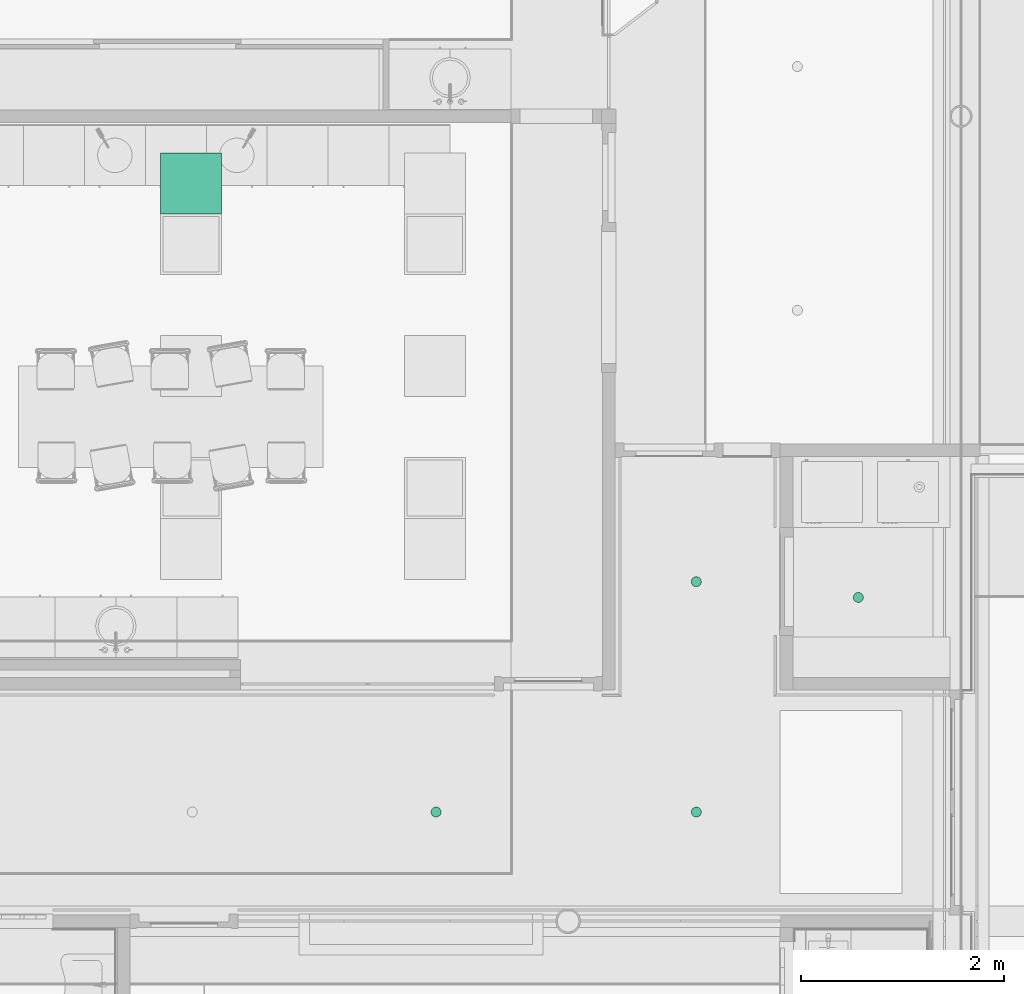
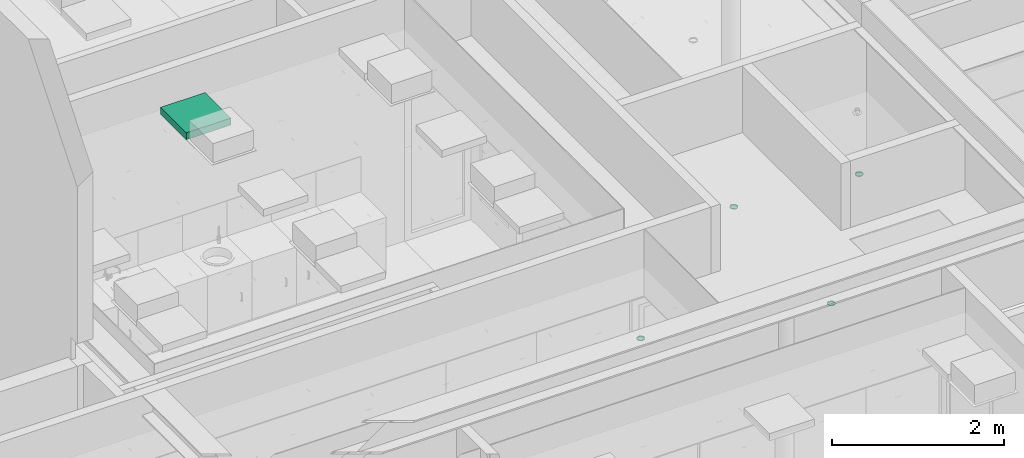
# One storey, part 213 of 347: 5 flow terminals.
"""IFC2X3 building model written with IfcOpenShell, lengths in millimetres."""

import ifcopenshell
import ifcopenshell.guid

model = None  # the IFC model being written
_history = None  # IfcOwnerHistory: only IFC2X3 demands one
_inside = {}  # id of a spatial element -> (the spatial element, [elements in it])
_under = {}  # id of a project, library or spatial element -> (it, [spatial elements below it])
_declared = {}  # id of a project -> (the project, [libraries it declares])
_typed = {}  # id of a type object -> (the type object, [elements of that type])
_made_of = {}  # id of a material, layer set ... -> (it, [elements and type objects made of it])


def new_model(schema):
    """Start an empty IFC model of exactly this schema.

    Asked for "IFC4X3", IfcOpenShell would pick the latest addendum, in which some entities
    have other attributes; the version numbers below select the first issue.
    IFC2X3 requires an IfcOwnerHistory on every rooted entity: one is made here for all.
    """
    global model, _history
    if schema == "IFC4X3":
        model = ifcopenshell.file(schema_version=(4, 3, 0, 0))
    else:
        model = ifcopenshell.file(schema=schema)
    _inside.clear()
    _under.clear()
    _declared.clear()
    _typed.clear()
    _made_of.clear()
    _history = None
    if model.schema == "IFC2X3":
        org = make("IfcOrganization", Name="unknown")
        user = make(
            "IfcPersonAndOrganization",
            ThePerson=make("IfcPerson", FamilyName="unknown"),
            TheOrganization=org,
        )
        app = make(
            "IfcApplication",
            ApplicationDeveloper=org,
            Version="unknown",
            ApplicationFullName="unknown",
            ApplicationIdentifier="unknown",
        )
        _history = make(
            "IfcOwnerHistory",
            OwningUser=user,
            OwningApplication=app,
            ChangeAction="ADDED",
            CreationDate=0,
        )
    return model


def make(cls, **values):
    """One entity of the class cls with the attributes given. An attribute that is None is left unset."""
    return model.create_entity(
        cls, **{name: value for name, value in values.items() if value is not None}
    )


def entity(cls, *values):
    """Any entity or typed value of the class cls, its attributes in the order of the schema. None: left unset."""
    e = model.create_entity(cls)
    for i, value in enumerate(values):
        if value is not None:
            e[i] = value
    return e


def rooted(cls, **values):
    """An entity with a GlobalId (a new one), such as an element, a storey or a relation."""
    return make(cls, GlobalId=ifcopenshell.guid.new(), OwnerHistory=_history, **values)


def si_unit(unit_type, name, prefix=None):
    """IfcSIUnit, for example si_unit("LENGTHUNIT", "METRE", prefix="MILLI")."""
    return make("IfcSIUnit", UnitType=unit_type, Prefix=prefix, Name=name)


def converted_unit(unit_type, name, factor, base, dimensions=None, offset=None):
    """IfcConversionBasedUnit, such as the inch: factor (a typed value) times the base unit."""
    return make(
        "IfcConversionBasedUnit"
        if offset is None
        else "IfcConversionBasedUnitWithOffset",
        ConversionOffset=offset,
        Dimensions=None
        if dimensions is None
        else entity("IfcDimensionalExponents", *dimensions),
        UnitType=unit_type,
        Name=name,
        ConversionFactor=make(
            "IfcMeasureWithUnit", ValueComponent=factor, UnitComponent=base
        ),
    )


def derived_unit(unit_type, elements):
    """IfcDerivedUnit: a product of units, each with its exponent."""
    return make(
        "IfcDerivedUnit",
        Elements=[
            make("IfcDerivedUnitElement", Unit=unit, Exponent=power)
            for unit, power in elements
        ],
        UnitType=unit_type,
    )


def money_unit(currency):
    """IfcMonetaryUnit."""
    return make("IfcMonetaryUnit", Currency=currency)


def assignment(units):
    """IfcUnitAssignment: the units of a project."""
    return None if units is None else make("IfcUnitAssignment", Units=units)


def point(xyz):
    """IfcCartesianPoint."""
    return None if xyz is None else make("IfcCartesianPoint", Coordinates=xyz)


def direction(xyz):
    """IfcDirection."""
    return None if xyz is None else make("IfcDirection", DirectionRatios=xyz)


def frame(location, z_axis=None, x_axis=None):
    """IfcAxis2Placement3D, a coordinate frame: its origin and axes. An axis left out is left unset."""
    return make(
        "IfcAxis2Placement3D",
        Location=point(location),
        Axis=direction(z_axis),
        RefDirection=direction(x_axis),
    )


def origin_with_axes():
    """The frame at (0, 0, 0) with the z axis (0, 0, 1) and the x axis (1, 0, 0) written out."""
    return frame((0.0, 0.0, 0.0), z_axis=(0.0, 0.0, 1.0), x_axis=(1.0, 0.0, 0.0))


def place(relative_to, where):
    """IfcLocalPlacement: puts the frame where relative to a parent placement (None: the world)."""
    return make(
        "IfcLocalPlacement", PlacementRelTo=relative_to, RelativePlacement=where
    )


def context(
    kind, dimensions, precision=None, world=None, true_north=None, identifier=None
):
    """IfcGeometricRepresentationContext, for example the 3D "Model" context."""
    return make(
        "IfcGeometricRepresentationContext",
        ContextIdentifier=identifier,
        ContextType=kind,
        CoordinateSpaceDimension=dimensions,
        Precision=precision,
        WorldCoordinateSystem=world,
        TrueNorth=true_north,
    )


def subcontext(parent, identifier, kind, view, scale=None):
    """IfcGeometricRepresentationSubContext, for example "Body" below "Model"."""
    return make(
        "IfcGeometricRepresentationSubContext",
        ContextIdentifier=identifier,
        ContextType=kind,
        ParentContext=parent,
        TargetScale=scale,
        TargetView=view,
    )


def project(units=None, contexts=None):
    """IfcProject with its units and contexts."""
    return rooted(
        "IfcProject",
        Name="project",
        RepresentationContexts=contexts,
        UnitsInContext=assignment(units),
    )


def spatial(cls, under=None, at=None, **own):
    """A site, building, storey or space (cls), placed at a placement, below another one or the project."""
    s = rooted(cls, ObjectPlacement=at, **own)
    if under is not None:
        _under.setdefault(under.id(), (under, []))[1].append(s)
    return s


def faces_of(points, faces, orient=None, outer=None):
    """IfcFace entities. A face is a list of loops; a loop is a list of indices into points, from 0.

    orient and outer hold one flag for each loop. By default every Orientation is true, the
    first loop of a face is its IfcFaceOuterBound and the others are IfcFaceBound.
    """
    made = []
    for i, loops in enumerate(faces):
        bounds = []
        for j, loop in enumerate(loops):
            is_outer = j == 0 if outer is None else outer[i][j]
            bounds.append(
                make(
                    "IfcFaceOuterBound" if is_outer else "IfcFaceBound",
                    Bound=make("IfcPolyLoop", Polygon=[points[k] for k in loop]),
                    Orientation=True if orient is None else orient[i][j],
                )
            )
        made.append(make("IfcFace", Bounds=bounds))
    return made


def open_shell(faces, orient=None, outer=None):
    """The faces of one IfcOpenShell. surface_model builds it on its shared points."""
    return ("IfcOpenShell", faces, orient, outer)


def faceted_brep(points, faces, orient=None, outer=None, voids=None):
    """IfcFacetedBrep: a solid bounded by flat faces; with voids (closed shells), ...WithVoids."""
    shared = [point(p) for p in points]
    hull = make("IfcClosedShell", CfsFaces=faces_of(shared, faces, orient, outer))
    if voids is None:
        return make("IfcFacetedBrep", Outer=hull)
    return make(
        "IfcFacetedBrepWithVoids",
        Outer=hull,
        Voids=[
            make(cls, CfsFaces=faces_of(shared, fs, o, b)) for cls, fs, o, b in voids
        ],
    )


def surface_model(cls, points, shells):
    """IfcFaceBasedSurfaceModel or IfcShellBasedSurfaceModel (cls): surfaces that need not close."""
    shared = [point(p) for p in points]
    made = [make(c, CfsFaces=faces_of(shared, fs, o, b)) for c, fs, o, b in shells]
    if cls == "IfcFaceBasedSurfaceModel":
        return make(cls, FbsmFaces=made)
    return make(cls, SbsmBoundary=made)


def shape(context_of_items, identifier, shape_type, items):
    """IfcShapeRepresentation: the items that make up one representation, for example the "Body"."""
    return make(
        "IfcShapeRepresentation",
        ContextOfItems=context_of_items,
        RepresentationIdentifier=identifier,
        RepresentationType=shape_type,
        Items=items,
    )


def source(mapping_origin, context_of_items, identifier, shape_type, items):
    """IfcRepresentationMap: a shape defined once, which mapped items show again and again."""
    return make(
        "IfcRepresentationMap",
        MappingOrigin=mapping_origin,
        MappedRepresentation=shape(context_of_items, identifier, shape_type, items),
    )


def transform(
    local_origin,
    x_axis=None,
    y_axis=None,
    z_axis=None,
    scale=None,
    scale2=None,
    scale3=None,
    uniform=True,
):
    """IfcCartesianTransformationOperator3D, or its non-uniform kind. x_axis, y_axis, z_axis: its Axis1, 2, 3."""
    if uniform:
        return make(
            "IfcCartesianTransformationOperator3D",
            Axis1=direction(x_axis),
            Axis2=direction(y_axis),
            LocalOrigin=point(local_origin),
            Scale=scale,
            Axis3=direction(z_axis),
        )
    return make(
        "IfcCartesianTransformationOperator3DnonUniform",
        Axis1=direction(x_axis),
        Axis2=direction(y_axis),
        LocalOrigin=point(local_origin),
        Scale=scale,
        Axis3=direction(z_axis),
        Scale2=scale2,
        Scale3=scale3,
    )


def mapped(mapping_source, mapping_target):
    """IfcMappedItem: shows the shape of a source again, moved by a transform."""
    return make(
        "IfcMappedItem", MappingSource=mapping_source, MappingTarget=mapping_target
    )


def made_of(thing, what):
    """Note that an element or type object is made of a material, layer set ...; save() writes the relation."""
    if what is not None:
        _made_of.setdefault(what.id(), (what, []))[1].append(thing)
    return thing


def type_object(cls, material=None, **own):
    """A type object (cls), such as IfcWallType, which elements share."""
    return made_of(rooted(cls, **own), material)


def type_shapes(of_type, sources):
    """Give a type object the sources (RepresentationMaps) that its elements show as mapped items."""
    of_type.RepresentationMaps = sources


def element(
    cls,
    number,
    at=None,
    inside=None,
    cuts=None,
    type_object=None,
    material=None,
    context=None,
    identifier="Body",
    shape_type=None,
    held_by="IfcProductDefinitionShape",
    body=None,
    shapes=None,
    **own,
):
    """One element of the class cls, such as IfcWall. Its Tag is "e" and its number.

    at: its placement. inside: the storey or other place that contains it. cuts: it is an
    opening in that element (IfcRelVoidsElement). A single representation is given by context,
    identifier, shape_type and body (its items); several are given by shapes. held_by: the class
    of the entity that holds the representations. save() writes the other relations.
    """
    e = rooted(cls, Tag="e%d" % number, ObjectPlacement=at, **own)
    if body is not None:
        shapes = [shape(context, identifier, shape_type, body)]
    if shapes is not None:
        e.Representation = make(held_by, Representations=shapes)
    if inside is not None:
        _inside.setdefault(inside.id(), (inside, []))[1].append(e)
    if cuts is not None:
        rooted(
            "IfcRelVoidsElement", RelatingBuildingElement=cuts, RelatedOpeningElement=e
        )
    if type_object is not None:
        _typed.setdefault(type_object.id(), (type_object, []))[1].append(e)
    return made_of(e, material)


def aggregate(whole, parts):
    """IfcRelAggregates: a whole, such as a stair, and the parts it consists of."""
    return rooted("IfcRelAggregates", RelatingObject=whole, RelatedObjects=parts)


def save(model, path):
    """Write the relations noted so far, then the file.

    IfcRelAggregates (storeys below a building ...), IfcRelContainedInSpatialStructure (elements
    in a storey), IfcRelDefinesByType, IfcRelAssociatesMaterial and IfcRelDeclares: one each for
    every whole, place, type object, material and project.
    """
    for whole, parts in _under.values():
        aggregate(whole, parts)
    for where, things in _inside.values():
        rooted(
            "IfcRelContainedInSpatialStructure",
            RelatedElements=things,
            RelatingStructure=where,
        )
    for kind, things in _typed.values():
        rooted("IfcRelDefinesByType", RelatedObjects=things, RelatingType=kind)
    for what, things in _made_of.values():
        rooted("IfcRelAssociatesMaterial", RelatedObjects=things, RelatingMaterial=what)
    for by, libraries in _declared.values():
        rooted("IfcRelDeclares", RelatingContext=by, RelatedDefinitions=libraries)
    model.write(path)


model = new_model("IFC2X3")

# Units and contexts
model_context = context("Model", 3, precision=0.01, world=origin_with_axes(), true_north=direction((0.0, 1.0)))
plan_context = context("Plan", 3, precision=0.01, world=origin_with_axes(), true_north=direction((0.0, 1.0)))
body_context = subcontext(model_context, "Body", "Model", "MODEL_VIEW")
ifc_project = project(units=[si_unit("LENGTHUNIT", "METRE", prefix="MILLI"), si_unit("AREAUNIT", "SQUARE_METRE"), si_unit("VOLUMEUNIT", "CUBIC_METRE"), converted_unit("PLANEANGLEUNIT", "DEGREE", entity("IfcPlaneAngleMeasure", 0.0174532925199), si_unit("PLANEANGLEUNIT", "RADIAN"), dimensions=[0, 0, 0, 0, 0, 0, 0]), money_unit("EUR"), converted_unit("TIMEUNIT", "Year", entity("IfcTimeMeasure", 31556926.0), si_unit("TIMEUNIT", "SECOND"), dimensions=[0, 0, 1, 0, 0, 0, 0]), si_unit("MASSUNIT", "GRAM", prefix="KILO"), si_unit("THERMODYNAMICTEMPERATUREUNIT", "DEGREE_CELSIUS"), si_unit("LUMINOUSINTENSITYUNIT", "LUMEN"), si_unit("ENERGYUNIT", "JOULE", prefix="MEGA"), derived_unit("THERMALCONDUCTANCEUNIT", [(si_unit("POWERUNIT", "WATT"), 1), (si_unit("LENGTHUNIT", "METRE"), -1), (si_unit("THERMODYNAMICTEMPERATUREUNIT", "KELVIN"), -1)]), derived_unit("SPECIFICHEATCAPACITYUNIT", [(si_unit("ENERGYUNIT", "JOULE"), 1), (si_unit("MASSUNIT", "GRAM", prefix="KILO"), -1), (si_unit("THERMODYNAMICTEMPERATUREUNIT", "KELVIN"), -1)]), derived_unit("MASSDENSITYUNIT", [(si_unit("MASSUNIT", "GRAM", prefix="KILO"), 1), (si_unit("VOLUMEUNIT", "CUBIC_METRE"), -1)])], contexts=[model_context, plan_context])

# Site, building, storey
site_placement = place(None, origin_with_axes())
site = spatial("IfcSite", under=ifc_project, at=site_placement, Name="Site", CompositionType="ELEMENT")
building_placement = place(site_placement, origin_with_axes())
building = spatial("IfcBuilding", under=site, at=building_placement, Name="Naam gebouw", CompositionType="ELEMENT")
storey_placement = place(building_placement, origin_with_axes())
storey = spatial("IfcBuildingStorey", under=building, at=storey_placement, Name="begane grond", CompositionType="ELEMENT", Elevation=0.0)

# Flow terminals
lamp_type_1 = type_object("IfcLampType", Name="Spot plafond 01 25", PredefinedType="NOTDEFINED")
shared_shape_1 = source(origin_with_axes(), body_context, "Body", "SurfaceModel", [
    faceted_brep([(50.0, 0.0, -10.0), (46.1939766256, 19.1341716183, -10.0), (46.1939766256, 19.1341716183, 0.0), (50.0, 0.0, 0.0), (46.1939766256, -19.1341716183, -10.0), (35.3553390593, -35.3553390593, -10.0), (19.1341716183, -46.1939766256, -10.0), (0.0, -50.0, -10.0), (-19.1341716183, -46.1939766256, -10.0), (-35.3553390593, -35.3553390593, -10.0), (-46.1939766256, -19.1341716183, -10.0), (-50.0, 0.0, -10.0), (-46.1939766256, 19.1341716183, -10.0), (-35.3553390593, 35.3553390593, -10.0), (-19.1341716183, 46.1939766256, -10.0), (0.0, 50.0, -10.0), (19.1341716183, 46.1939766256, -10.0), (35.3553390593, 35.3553390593, -10.0), (40.0, 0.0, -10.0), (36.9551813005, 15.3073372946, -10.0), (28.2842712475, 28.2842712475, -10.0), (15.3073372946, 36.9551813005, -10.0), (0.0, 40.0, -10.0), (-15.3073372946, 36.9551813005, -10.0), (-28.2842712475, 28.2842712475, -10.0), (-36.9551813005, 15.3073372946, -10.0), (-40.0, 0.0, -10.0), (-36.9551813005, -15.3073372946, -10.0), (-28.2842712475, -28.2842712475, -10.0), (-15.3073372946, -36.9551813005, -10.0), (0.0, -40.0, -10.0), (15.3073372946, -36.9551813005, -10.0), (28.2842712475, -28.2842712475, -10.0), (36.9551813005, -15.3073372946, -10.0), (35.3553390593, 35.3553390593, 0.0), (19.1341716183, 46.1939766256, 0.0), (0.0, 50.0, 0.0), (-19.1341716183, 46.1939766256, 0.0), (-35.3553390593, 35.3553390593, 0.0), (-46.1939766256, 19.1341716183, 0.0), (-50.0, 0.0, 0.0), (-46.1939766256, -19.1341716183, 0.0), (-35.3553390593, -35.3553390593, 0.0), (-19.1341716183, -46.1939766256, 0.0), (0.0, -50.0, 0.0), (19.1341716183, -46.1939766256, 0.0), (35.3553390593, -35.3553390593, 0.0), (46.1939766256, -19.1341716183, 0.0), (40.0, 0.0, 0.0), (36.9551813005, -15.3073372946, 0.0), (28.2842712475, -28.2842712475, 0.0), (15.3073372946, -36.9551813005, 0.0), (0.0, -40.0, 0.0), (-15.3073372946, -36.9551813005, 0.0), (-28.2842712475, -28.2842712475, 0.0), (-36.9551813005, -15.3073372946, 0.0), (-40.0, 0.0, 0.0), (-36.9551813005, 15.3073372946, 0.0), (-28.2842712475, 28.2842712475, 0.0), (-15.3073372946, 36.9551813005, 0.0), (0.0, 40.0, 0.0), (15.3073372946, 36.9551813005, 0.0), (28.2842712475, 28.2842712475, 0.0), (36.9551813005, 15.3073372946, 0.0)], [[[0, 1, 2, 3]], [[0, 4, 5, 6, 7, 8, 9, 10, 11, 12, 13, 14, 15, 16, 17, 1], [18, 19, 20, 21, 22, 23, 24, 25, 26, 27, 28, 29, 30, 31, 32, 33]], [[1, 17, 34, 2]], [[3, 2, 34, 35, 36, 37, 38, 39, 40, 41, 42, 43, 44, 45, 46, 47], [48, 49, 50, 51, 52, 53, 54, 55, 56, 57, 58, 59, 60, 61, 62, 63]], [[4, 0, 3, 47]], [[5, 4, 47, 46]], [[6, 5, 46, 45]], [[7, 6, 45, 44]], [[8, 7, 44, 43]], [[9, 8, 43, 42]], [[10, 9, 42, 41]], [[11, 10, 41, 40]], [[12, 11, 40, 39]], [[13, 12, 39, 38]], [[14, 13, 38, 37]], [[15, 14, 37, 36]], [[16, 15, 36, 35]], [[17, 16, 35, 34]], [[19, 18, 48, 63]], [[20, 19, 63, 62]], [[21, 20, 62, 61]], [[22, 21, 61, 60]], [[23, 22, 60, 59]], [[24, 23, 59, 58]], [[25, 24, 58, 57]], [[26, 25, 57, 56]], [[27, 26, 56, 55]], [[28, 27, 55, 54]], [[29, 28, 54, 53]], [[30, 29, 53, 52]], [[31, 30, 52, 51]], [[32, 31, 51, 50]], [[33, 32, 50, 49]], [[18, 33, 49, 48]]]),
    surface_model("IfcShellBasedSurfaceModel", [(40.0, 0.0, -8.9), (36.9551813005, -15.3073372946, -8.9), (28.2842712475, -28.2842712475, -8.9), (15.3073372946, -36.9551813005, -8.9), (0.0, -40.0, -8.9), (-15.3073372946, -36.9551813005, -8.9), (-28.2842712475, -28.2842712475, -8.9), (-36.9551813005, -15.3073372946, -8.9), (-40.0, 0.0, -8.9), (-36.9551813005, 15.3073372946, -8.9), (-28.2842712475, 28.2842712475, -8.9), (-15.3073372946, 36.9551813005, -8.9), (0.0, 40.0, -8.9), (15.3073372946, 36.9551813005, -8.9), (28.2842712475, 28.2842712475, -8.9), (36.9551813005, 15.3073372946, -8.9)], [open_shell([[[0, 1, 2, 3, 4, 5, 6, 7, 8, 9, 10, 11, 12, 13, 14, 15]]])]),
])
type_shapes(lamp_type_1, [shared_shape_1])
for number, where, z_axis, x_axis, name in (
    (1, (30437.5, 13200.0, 3000.0), (0.0, 0.0, 1.0), (1.0, 0.0, 0.0), "63_Lamp-x"),
    (2, (33000.0, 13200.0, 2600.0), (0.0, 0.0, 1.0), (1.0, 0.0, 0.0), "63_Lamp-x"),
    (3, (33000.0, 15468.0, 2600.0), (0.0, 0.0, 1.0), (1.0, 0.0, 0.0), "63_Lamp-x"),
    (4, (34595.0, 15312.4999846, 2600.0), (0.0, 0.0, 1.0), (1.0, 0.0, 0.0), "63_Lamp-x"),
):
    element("IfcFlowTerminal", number, at=place(storey_placement, frame(where, z_axis=z_axis, x_axis=x_axis)), inside=storey, type_object=lamp_type_1, Name=name, ObjectType="Lamp", context=body_context, shape_type="MappedRepresentation", body=[
        mapped(shared_shape_1, transform((0.0, 0.0, 0.0))),
    ])
lamp_type_2 = type_object("IfcLampType", Name="TL plafond 25", PredefinedType="NOTDEFINED")
shared_shape_2 = source(origin_with_axes(), body_context, "Body", "SurfaceModel", [
    faceted_brep([(0.0, 0.0, -100.0), (600.0, 0.0, -100.0), (600.0, 0.0, 0.0), (0.0, 0.0, 0.0), (0.0, 600.0, -100.0), (600.0, 600.0, -100.0), (40.0, 40.0, -100.0), (560.0, 40.0, -100.0), (560.0, 560.0, -100.0), (40.0, 560.0, -100.0), (600.0, 600.0, 0.0), (0.0, 600.0, 0.0), (40.0, 40.0, 0.0), (40.0, 560.0, 0.0), (560.0, 560.0, 0.0), (560.0, 40.0, 0.0)], [[[0, 1, 2, 3]], [[0, 4, 5, 1], [6, 7, 8, 9]], [[1, 5, 10, 2]], [[3, 2, 10, 11], [12, 13, 14, 15]], [[4, 0, 3, 11]], [[5, 4, 11, 10]], [[7, 6, 12, 15]], [[8, 7, 15, 14]], [[9, 8, 14, 13]], [[6, 9, 13, 12]]]),
    faceted_brep([(40.0, 40.0, -16.3333333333), (560.0, 40.0, -16.3333333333), (560.0, 40.0, 0.0), (40.0, 40.0, 0.0), (40.0, 560.0, -16.3333333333), (560.0, 560.0, -16.3333333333), (560.0, 560.0, 0.0), (40.0, 560.0, 0.0)], [[[0, 1, 2, 3]], [[0, 4, 5, 1]], [[1, 5, 6, 2]], [[3, 2, 6, 7]], [[4, 0, 3, 7]], [[5, 4, 7, 6]]]),
    surface_model("IfcShellBasedSurfaceModel", [(559.0, 41.0, -100.0), (40.0, 41.0, -100.0), (40.0, 559.0, -100.0), (559.0, 559.0, -100.0)], [open_shell([[[0, 1, 2, 3]]])]),
    faceted_brep([(40.0, 40.0, -100.0), (560.0, 40.0, -100.0), (560.0, 40.0, -60.0), (40.0, 40.0, -60.0), (40.0, 560.0, -100.0), (560.0, 560.0, -100.0), (41.0, 41.0, -100.0), (559.0, 41.0, -100.0), (559.0, 559.0, -100.0), (41.0, 559.0, -100.0), (560.0, 560.0, -60.0), (40.0, 560.0, -60.0), (41.0, 41.0, -60.0), (41.0, 559.0, -60.0), (559.0, 559.0, -60.0), (559.0, 41.0, -60.0)], [[[0, 1, 2, 3]], [[0, 4, 5, 1], [6, 7, 8, 9]], [[1, 5, 10, 2]], [[3, 2, 10, 11], [12, 13, 14, 15]], [[4, 0, 3, 11]], [[5, 4, 11, 10]], [[7, 6, 12, 15]], [[8, 7, 15, 14]], [[9, 8, 14, 13]], [[6, 9, 13, 12]]]),
    faceted_brep([(40.0, 144.0, -48.3333333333), (40.0, 149.740251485, -47.191526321), (560.0, 149.740251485, -47.191526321), (560.0, 144.0, -48.3333333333), (40.0, 138.259748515, -47.191526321), (40.0, 133.393398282, -43.9399350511), (40.0, 130.141807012, -39.0735848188), (40.0, 129.0, -33.3333333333), (40.0, 130.141807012, -27.5930818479), (40.0, 133.393398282, -22.7267316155), (40.0, 138.259748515, -19.4751403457), (40.0, 144.0, -18.3333333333), (40.0, 149.740251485, -19.4751403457), (40.0, 154.606601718, -22.7267316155), (40.0, 157.858192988, -27.5930818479), (40.0, 159.0, -33.3333333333), (40.0, 157.858192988, -39.0735848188), (40.0, 154.606601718, -43.9399350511), (40.0, 144.0, -46.3333333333), (40.0, 148.974884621, -45.343767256), (40.0, 153.192388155, -42.5257214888), (40.0, 156.010433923, -38.3082179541), (40.0, 157.0, -33.3333333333), (40.0, 156.010433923, -28.3584487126), (40.0, 153.192388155, -24.1409451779), (40.0, 148.974884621, -21.3228994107), (40.0, 144.0, -20.3333333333), (40.0, 139.025115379, -21.3228994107), (40.0, 134.807611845, -24.1409451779), (40.0, 131.989566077, -28.3584487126), (40.0, 131.0, -33.3333333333), (40.0, 131.989566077, -38.3082179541), (40.0, 134.807611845, -42.5257214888), (40.0, 139.025115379, -45.343767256), (560.0, 154.606601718, -43.9399350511), (560.0, 157.858192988, -39.0735848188), (560.0, 159.0, -33.3333333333), (560.0, 157.858192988, -27.5930818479), (560.0, 154.606601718, -22.7267316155), (560.0, 149.740251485, -19.4751403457), (560.0, 144.0, -18.3333333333), (560.0, 138.259748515, -19.4751403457), (560.0, 133.393398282, -22.7267316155), (560.0, 130.141807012, -27.5930818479), (560.0, 129.0, -33.3333333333), (560.0, 130.141807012, -39.0735848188), (560.0, 133.393398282, -43.9399350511), (560.0, 138.259748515, -47.191526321), (560.0, 144.0, -46.3333333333), (560.0, 139.025115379, -45.343767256), (560.0, 134.807611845, -42.5257214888), (560.0, 131.989566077, -38.3082179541), (560.0, 131.0, -33.3333333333), (560.0, 131.989566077, -28.3584487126), (560.0, 134.807611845, -24.1409451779), (560.0, 139.025115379, -21.3228994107), (560.0, 144.0, -20.3333333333), (560.0, 148.974884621, -21.3228994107), (560.0, 153.192388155, -24.1409451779), (560.0, 156.010433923, -28.3584487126), (560.0, 157.0, -33.3333333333), (560.0, 156.010433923, -38.3082179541), (560.0, 153.192388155, -42.5257214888), (560.0, 148.974884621, -45.343767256)], [[[0, 1, 2, 3]], [[0, 4, 5, 6, 7, 8, 9, 10, 11, 12, 13, 14, 15, 16, 17, 1], [18, 19, 20, 21, 22, 23, 24, 25, 26, 27, 28, 29, 30, 31, 32, 33]], [[1, 17, 34, 2]], [[3, 2, 34, 35, 36, 37, 38, 39, 40, 41, 42, 43, 44, 45, 46, 47], [48, 49, 50, 51, 52, 53, 54, 55, 56, 57, 58, 59, 60, 61, 62, 63]], [[4, 0, 3, 47]], [[5, 4, 47, 46]], [[6, 5, 46, 45]], [[7, 6, 45, 44]], [[8, 7, 44, 43]], [[9, 8, 43, 42]], [[10, 9, 42, 41]], [[11, 10, 41, 40]], [[12, 11, 40, 39]], [[13, 12, 39, 38]], [[14, 13, 38, 37]], [[15, 14, 37, 36]], [[16, 15, 36, 35]], [[17, 16, 35, 34]], [[19, 18, 48, 63]], [[20, 19, 63, 62]], [[21, 20, 62, 61]], [[22, 21, 61, 60]], [[23, 22, 60, 59]], [[24, 23, 59, 58]], [[25, 24, 58, 57]], [[26, 25, 57, 56]], [[27, 26, 56, 55]], [[28, 27, 55, 54]], [[29, 28, 54, 53]], [[30, 29, 53, 52]], [[31, 30, 52, 51]], [[32, 31, 51, 50]], [[33, 32, 50, 49]], [[18, 33, 49, 48]]]),
    faceted_brep([(40.0, 248.0, -48.3333333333), (40.0, 253.740251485, -47.191526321), (560.0, 253.740251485, -47.191526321), (560.0, 248.0, -48.3333333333), (40.0, 242.259748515, -47.191526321), (40.0, 237.393398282, -43.9399350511), (40.0, 234.141807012, -39.0735848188), (40.0, 233.0, -33.3333333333), (40.0, 234.141807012, -27.5930818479), (40.0, 237.393398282, -22.7267316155), (40.0, 242.259748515, -19.4751403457), (40.0, 248.0, -18.3333333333), (40.0, 253.740251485, -19.4751403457), (40.0, 258.606601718, -22.7267316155), (40.0, 261.858192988, -27.5930818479), (40.0, 263.0, -33.3333333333), (40.0, 261.858192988, -39.0735848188), (40.0, 258.606601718, -43.9399350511), (40.0, 248.0, -46.3333333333), (40.0, 252.974884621, -45.343767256), (40.0, 257.192388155, -42.5257214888), (40.0, 260.010433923, -38.3082179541), (40.0, 261.0, -33.3333333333), (40.0, 260.010433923, -28.3584487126), (40.0, 257.192388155, -24.1409451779), (40.0, 252.974884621, -21.3228994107), (40.0, 248.0, -20.3333333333), (40.0, 243.025115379, -21.3228994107), (40.0, 238.807611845, -24.1409451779), (40.0, 235.989566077, -28.3584487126), (40.0, 235.0, -33.3333333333), (40.0, 235.989566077, -38.3082179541), (40.0, 238.807611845, -42.5257214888), (40.0, 243.025115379, -45.343767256), (560.0, 258.606601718, -43.9399350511), (560.0, 261.858192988, -39.0735848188), (560.0, 263.0, -33.3333333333), (560.0, 261.858192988, -27.5930818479), (560.0, 258.606601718, -22.7267316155), (560.0, 253.740251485, -19.4751403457), (560.0, 248.0, -18.3333333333), (560.0, 242.259748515, -19.4751403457), (560.0, 237.393398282, -22.7267316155), (560.0, 234.141807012, -27.5930818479), (560.0, 233.0, -33.3333333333), (560.0, 234.141807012, -39.0735848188), (560.0, 237.393398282, -43.9399350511), (560.0, 242.259748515, -47.191526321), (560.0, 248.0, -46.3333333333), (560.0, 243.025115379, -45.343767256), (560.0, 238.807611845, -42.5257214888), (560.0, 235.989566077, -38.3082179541), (560.0, 235.0, -33.3333333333), (560.0, 235.989566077, -28.3584487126), (560.0, 238.807611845, -24.1409451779), (560.0, 243.025115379, -21.3228994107), (560.0, 248.0, -20.3333333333), (560.0, 252.974884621, -21.3228994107), (560.0, 257.192388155, -24.1409451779), (560.0, 260.010433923, -28.3584487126), (560.0, 261.0, -33.3333333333), (560.0, 260.010433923, -38.3082179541), (560.0, 257.192388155, -42.5257214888), (560.0, 252.974884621, -45.343767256)], [[[0, 1, 2, 3]], [[0, 4, 5, 6, 7, 8, 9, 10, 11, 12, 13, 14, 15, 16, 17, 1], [18, 19, 20, 21, 22, 23, 24, 25, 26, 27, 28, 29, 30, 31, 32, 33]], [[1, 17, 34, 2]], [[3, 2, 34, 35, 36, 37, 38, 39, 40, 41, 42, 43, 44, 45, 46, 47], [48, 49, 50, 51, 52, 53, 54, 55, 56, 57, 58, 59, 60, 61, 62, 63]], [[4, 0, 3, 47]], [[5, 4, 47, 46]], [[6, 5, 46, 45]], [[7, 6, 45, 44]], [[8, 7, 44, 43]], [[9, 8, 43, 42]], [[10, 9, 42, 41]], [[11, 10, 41, 40]], [[12, 11, 40, 39]], [[13, 12, 39, 38]], [[14, 13, 38, 37]], [[15, 14, 37, 36]], [[16, 15, 36, 35]], [[17, 16, 35, 34]], [[19, 18, 48, 63]], [[20, 19, 63, 62]], [[21, 20, 62, 61]], [[22, 21, 61, 60]], [[23, 22, 60, 59]], [[24, 23, 59, 58]], [[25, 24, 58, 57]], [[26, 25, 57, 56]], [[27, 26, 56, 55]], [[28, 27, 55, 54]], [[29, 28, 54, 53]], [[30, 29, 53, 52]], [[31, 30, 52, 51]], [[32, 31, 51, 50]], [[33, 32, 50, 49]], [[18, 33, 49, 48]]]),
    faceted_brep([(40.0, 352.0, -48.3333333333), (40.0, 357.740251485, -47.191526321), (560.0, 357.740251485, -47.191526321), (560.0, 352.0, -48.3333333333), (40.0, 346.259748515, -47.191526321), (40.0, 341.393398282, -43.9399350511), (40.0, 338.141807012, -39.0735848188), (40.0, 337.0, -33.3333333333), (40.0, 338.141807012, -27.5930818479), (40.0, 341.393398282, -22.7267316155), (40.0, 346.259748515, -19.4751403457), (40.0, 352.0, -18.3333333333), (40.0, 357.740251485, -19.4751403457), (40.0, 362.606601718, -22.7267316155), (40.0, 365.858192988, -27.5930818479), (40.0, 367.0, -33.3333333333), (40.0, 365.858192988, -39.0735848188), (40.0, 362.606601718, -43.9399350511), (40.0, 352.0, -46.3333333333), (40.0, 356.974884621, -45.343767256), (40.0, 361.192388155, -42.5257214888), (40.0, 364.010433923, -38.3082179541), (40.0, 365.0, -33.3333333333), (40.0, 364.010433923, -28.3584487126), (40.0, 361.192388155, -24.1409451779), (40.0, 356.974884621, -21.3228994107), (40.0, 352.0, -20.3333333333), (40.0, 347.025115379, -21.3228994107), (40.0, 342.807611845, -24.1409451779), (40.0, 339.989566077, -28.3584487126), (40.0, 339.0, -33.3333333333), (40.0, 339.989566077, -38.3082179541), (40.0, 342.807611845, -42.5257214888), (40.0, 347.025115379, -45.343767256), (560.0, 362.606601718, -43.9399350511), (560.0, 365.858192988, -39.0735848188), (560.0, 367.0, -33.3333333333), (560.0, 365.858192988, -27.5930818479), (560.0, 362.606601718, -22.7267316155), (560.0, 357.740251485, -19.4751403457), (560.0, 352.0, -18.3333333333), (560.0, 346.259748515, -19.4751403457), (560.0, 341.393398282, -22.7267316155), (560.0, 338.141807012, -27.5930818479), (560.0, 337.0, -33.3333333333), (560.0, 338.141807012, -39.0735848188), (560.0, 341.393398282, -43.9399350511), (560.0, 346.259748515, -47.191526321), (560.0, 352.0, -46.3333333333), (560.0, 347.025115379, -45.343767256), (560.0, 342.807611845, -42.5257214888), (560.0, 339.989566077, -38.3082179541), (560.0, 339.0, -33.3333333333), (560.0, 339.989566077, -28.3584487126), (560.0, 342.807611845, -24.1409451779), (560.0, 347.025115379, -21.3228994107), (560.0, 352.0, -20.3333333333), (560.0, 356.974884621, -21.3228994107), (560.0, 361.192388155, -24.1409451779), (560.0, 364.010433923, -28.3584487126), (560.0, 365.0, -33.3333333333), (560.0, 364.010433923, -38.3082179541), (560.0, 361.192388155, -42.5257214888), (560.0, 356.974884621, -45.343767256)], [[[0, 1, 2, 3]], [[0, 4, 5, 6, 7, 8, 9, 10, 11, 12, 13, 14, 15, 16, 17, 1], [18, 19, 20, 21, 22, 23, 24, 25, 26, 27, 28, 29, 30, 31, 32, 33]], [[1, 17, 34, 2]], [[3, 2, 34, 35, 36, 37, 38, 39, 40, 41, 42, 43, 44, 45, 46, 47], [48, 49, 50, 51, 52, 53, 54, 55, 56, 57, 58, 59, 60, 61, 62, 63]], [[4, 0, 3, 47]], [[5, 4, 47, 46]], [[6, 5, 46, 45]], [[7, 6, 45, 44]], [[8, 7, 44, 43]], [[9, 8, 43, 42]], [[10, 9, 42, 41]], [[11, 10, 41, 40]], [[12, 11, 40, 39]], [[13, 12, 39, 38]], [[14, 13, 38, 37]], [[15, 14, 37, 36]], [[16, 15, 36, 35]], [[17, 16, 35, 34]], [[19, 18, 48, 63]], [[20, 19, 63, 62]], [[21, 20, 62, 61]], [[22, 21, 61, 60]], [[23, 22, 60, 59]], [[24, 23, 59, 58]], [[25, 24, 58, 57]], [[26, 25, 57, 56]], [[27, 26, 56, 55]], [[28, 27, 55, 54]], [[29, 28, 54, 53]], [[30, 29, 53, 52]], [[31, 30, 52, 51]], [[32, 31, 51, 50]], [[33, 32, 50, 49]], [[18, 33, 49, 48]]]),
    faceted_brep([(40.0, 456.0, -48.3333333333), (40.0, 461.740251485, -47.191526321), (560.0, 461.740251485, -47.191526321), (560.0, 456.0, -48.3333333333), (40.0, 450.259748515, -47.191526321), (40.0, 445.393398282, -43.9399350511), (40.0, 442.141807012, -39.0735848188), (40.0, 441.0, -33.3333333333), (40.0, 442.141807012, -27.5930818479), (40.0, 445.393398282, -22.7267316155), (40.0, 450.259748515, -19.4751403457), (40.0, 456.0, -18.3333333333), (40.0, 461.740251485, -19.4751403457), (40.0, 466.606601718, -22.7267316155), (40.0, 469.858192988, -27.5930818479), (40.0, 471.0, -33.3333333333), (40.0, 469.858192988, -39.0735848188), (40.0, 466.606601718, -43.9399350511), (40.0, 456.0, -46.3333333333), (40.0, 460.974884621, -45.343767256), (40.0, 465.192388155, -42.5257214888), (40.0, 468.010433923, -38.3082179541), (40.0, 469.0, -33.3333333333), (40.0, 468.010433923, -28.3584487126), (40.0, 465.192388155, -24.1409451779), (40.0, 460.974884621, -21.3228994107), (40.0, 456.0, -20.3333333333), (40.0, 451.025115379, -21.3228994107), (40.0, 446.807611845, -24.1409451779), (40.0, 443.989566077, -28.3584487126), (40.0, 443.0, -33.3333333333), (40.0, 443.989566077, -38.3082179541), (40.0, 446.807611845, -42.5257214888), (40.0, 451.025115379, -45.343767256), (560.0, 466.606601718, -43.9399350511), (560.0, 469.858192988, -39.0735848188), (560.0, 471.0, -33.3333333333), (560.0, 469.858192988, -27.5930818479), (560.0, 466.606601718, -22.7267316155), (560.0, 461.740251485, -19.4751403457), (560.0, 456.0, -18.3333333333), (560.0, 450.259748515, -19.4751403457), (560.0, 445.393398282, -22.7267316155), (560.0, 442.141807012, -27.5930818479), (560.0, 441.0, -33.3333333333), (560.0, 442.141807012, -39.0735848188), (560.0, 445.393398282, -43.9399350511), (560.0, 450.259748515, -47.191526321), (560.0, 456.0, -46.3333333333), (560.0, 451.025115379, -45.343767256), (560.0, 446.807611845, -42.5257214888), (560.0, 443.989566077, -38.3082179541), (560.0, 443.0, -33.3333333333), (560.0, 443.989566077, -28.3584487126), (560.0, 446.807611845, -24.1409451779), (560.0, 451.025115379, -21.3228994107), (560.0, 456.0, -20.3333333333), (560.0, 460.974884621, -21.3228994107), (560.0, 465.192388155, -24.1409451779), (560.0, 468.010433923, -28.3584487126), (560.0, 469.0, -33.3333333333), (560.0, 468.010433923, -38.3082179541), (560.0, 465.192388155, -42.5257214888), (560.0, 460.974884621, -45.343767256)], [[[0, 1, 2, 3]], [[0, 4, 5, 6, 7, 8, 9, 10, 11, 12, 13, 14, 15, 16, 17, 1], [18, 19, 20, 21, 22, 23, 24, 25, 26, 27, 28, 29, 30, 31, 32, 33]], [[1, 17, 34, 2]], [[3, 2, 34, 35, 36, 37, 38, 39, 40, 41, 42, 43, 44, 45, 46, 47], [48, 49, 50, 51, 52, 53, 54, 55, 56, 57, 58, 59, 60, 61, 62, 63]], [[4, 0, 3, 47]], [[5, 4, 47, 46]], [[6, 5, 46, 45]], [[7, 6, 45, 44]], [[8, 7, 44, 43]], [[9, 8, 43, 42]], [[10, 9, 42, 41]], [[11, 10, 41, 40]], [[12, 11, 40, 39]], [[13, 12, 39, 38]], [[14, 13, 38, 37]], [[15, 14, 37, 36]], [[16, 15, 36, 35]], [[17, 16, 35, 34]], [[19, 18, 48, 63]], [[20, 19, 63, 62]], [[21, 20, 62, 61]], [[22, 21, 61, 60]], [[23, 22, 60, 59]], [[24, 23, 59, 58]], [[25, 24, 58, 57]], [[26, 25, 57, 56]], [[27, 26, 56, 55]], [[28, 27, 55, 54]], [[29, 28, 54, 53]], [[30, 29, 53, 52]], [[31, 30, 52, 51]], [[32, 31, 51, 50]], [[33, 32, 50, 49]], [[18, 33, 49, 48]]]),
])
type_shapes(lamp_type_2, [shared_shape_2])
flow_terminal_placement = place(storey_placement, frame((27725.0, 19090.0000948, 3295.0), z_axis=(0.0, 0.0, 1.0), x_axis=(1.0, 0.0, 0.0)))
element("IfcFlowTerminal", 5, at=flow_terminal_placement, inside=storey, type_object=lamp_type_2, Name="63_Lamp-x", ObjectType="Lamp", context=body_context, shape_type="MappedRepresentation", body=[
    mapped(shared_shape_2, transform((0.0, 0.0, 0.0))),
])

save(model, "model.ifc")
